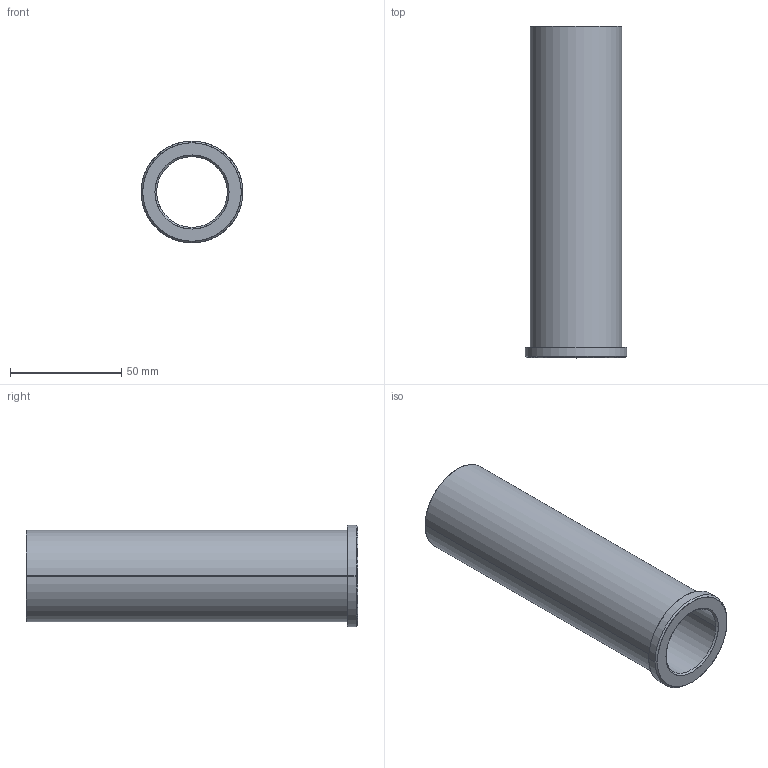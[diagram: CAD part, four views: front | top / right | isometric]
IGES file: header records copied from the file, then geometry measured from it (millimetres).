
Start section: SolidWorks IGES file using analytic representation for surfaces
Global section: file name: C:\Users\Ryan\Documents\PCS\Shoulder Bushings - Bronze Plated\LBB 10-57.igs; native system: SolidWorks 2009; preprocessor: SolidWorks 2009; author: Ryan; date: 140913.211839; units: inch
Bounding box: 45.77 x 149.22 x 45.77 mm (x, y, z)
Surface area: 35846.5 mm2 (no closed solid volume)
Topology: 0 solids, 0 shells, 15 faces, 432 edges, 432 vertices
Faces by surface type: revolution 10, bspline 5
